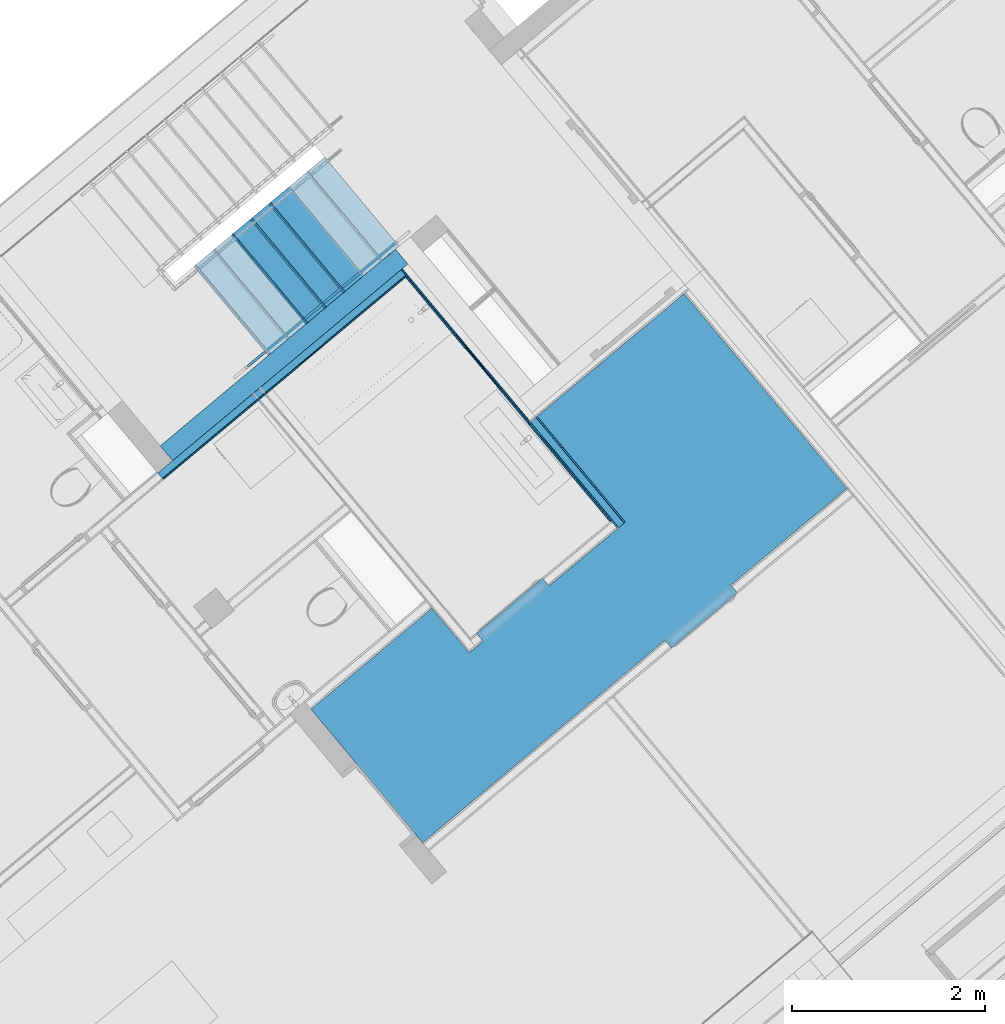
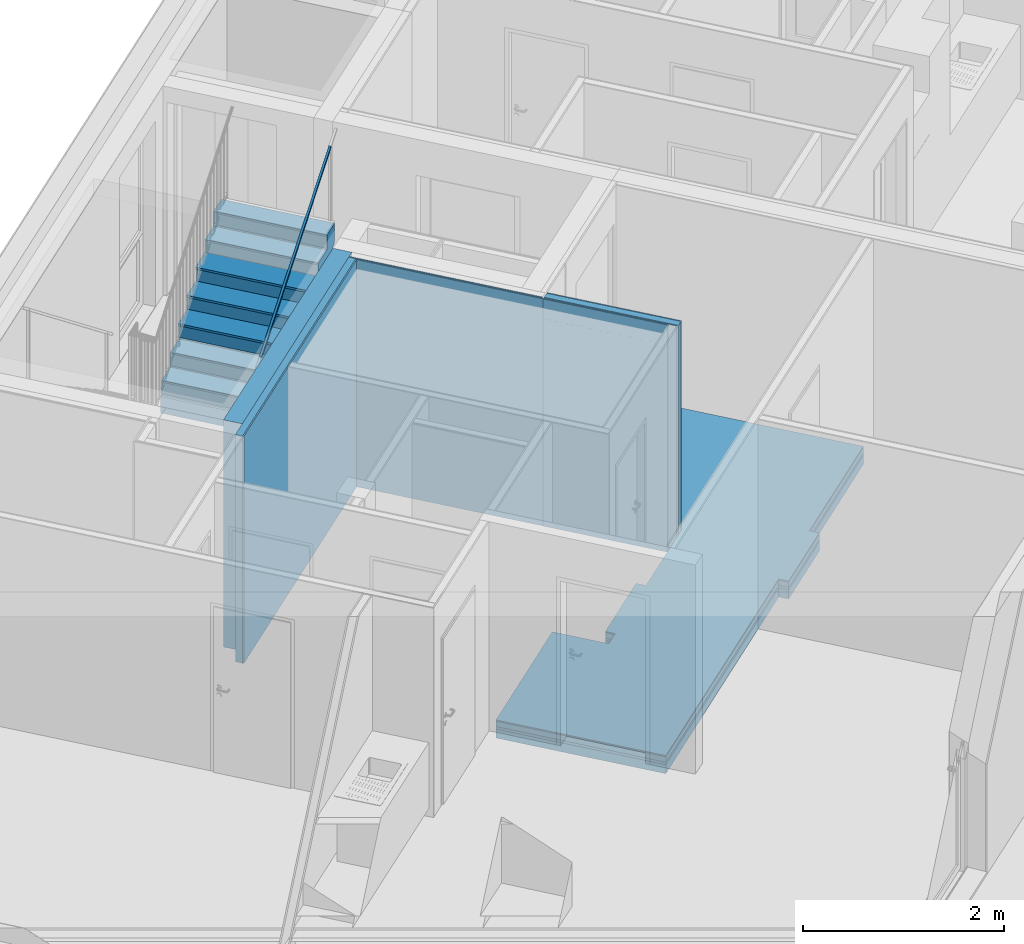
# One storey, part 26 of 58: 21 building element parts, 6 elements without a shape of their own.
"""IFC4 building model written with IfcOpenShell, lengths in metres."""

from ifc_helpers import new_model, entity, si_unit, converted_unit, derived_unit, direction, frame, origin_with_axes, place, context, subcontext, project, spatial, polygons, material, type_object, element, aggregate, save


model = new_model("IFC4")

# Units and contexts
model_context = context("Model", 3, precision=1e-05, world=origin_with_axes(), true_north=direction((0.0, 1.0)))
body_context = subcontext(model_context, "Body", "Model", "MODEL_VIEW")
ifc_project = project(units=[si_unit("LENGTHUNIT", "METRE"), si_unit("AREAUNIT", "SQUARE_METRE"), si_unit("VOLUMEUNIT", "CUBIC_METRE"), converted_unit("PLANEANGLEUNIT", "DEGREE", entity("IfcPlaneAngleMeasure", 0.0174532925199), si_unit("PLANEANGLEUNIT", "RADIAN"), dimensions=[0, 0, 0, 0, 0, 0, 0]), converted_unit("TIMEUNIT", "Year", entity("IfcTimeMeasure", 31556926.0), si_unit("TIMEUNIT", "SECOND"), dimensions=[0, 0, 1, 0, 0, 0, 0]), si_unit("MASSUNIT", "GRAM", prefix="KILO"), si_unit("THERMODYNAMICTEMPERATUREUNIT", "DEGREE_CELSIUS"), si_unit("LUMINOUSINTENSITYUNIT", "LUMEN"), si_unit("ENERGYUNIT", "JOULE", prefix="MEGA"), derived_unit("THERMALCONDUCTANCEUNIT", [(si_unit("POWERUNIT", "WATT"), 1), (si_unit("LENGTHUNIT", "METRE"), -1), (si_unit("THERMODYNAMICTEMPERATUREUNIT", "KELVIN"), -1)]), derived_unit("SPECIFICHEATCAPACITYUNIT", [(si_unit("ENERGYUNIT", "JOULE"), 1), (si_unit("MASSUNIT", "GRAM", prefix="KILO"), -1), (si_unit("THERMODYNAMICTEMPERATUREUNIT", "KELVIN"), -1)]), derived_unit("MASSDENSITYUNIT", [(si_unit("MASSUNIT", "GRAM", prefix="KILO"), 1), (si_unit("VOLUMEUNIT", "CUBIC_METRE"), -1)])], contexts=[model_context])

# Site, building, storey
site_placement = place(None, frame((-0.00153261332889, -0.00661245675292, 0.0), z_axis=(0.0, 0.0, 1.0), x_axis=(1.0, 0.0, 0.0)))
site = spatial("IfcSite", under=ifc_project, at=site_placement, Name="Site", CompositionType="ELEMENT")
building_placement = place(site_placement, origin_with_axes())
building = spatial("IfcBuilding", under=site, at=building_placement, Name="Building", CompositionType="ELEMENT")
storey_placement = place(building_placement, frame((0.0, 0.0, 5.7), z_axis=(0.0, 0.0, 1.0), x_axis=(1.0, 0.0, 0.0)))
storey = spatial("IfcBuildingStorey", under=building, at=storey_placement, Name="DG1", CompositionType="ELEMENT", Elevation=5.7)

# Wall, building element parts
wall_type_1 = type_object("IfcWallType", Name="LB 9,0 cm einfache Vorsatzschale + STB 290", PredefinedType="NOTDEFINED")
wall_1_placement = place(storey_placement, frame((0.396355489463, 22.7277018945, 0.0), z_axis=(0.0, 0.0, 1.0), x_axis=(-0.767365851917, -0.641209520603, 0.0)))
wall_1 = element("IfcWall", 1, at=wall_1_placement, inside=storey, type_object=wall_type_1, Name="Wand-003", PredefinedType="NOTDEFINED")
ifc_material_1 = material(Name="Gipskarton")
building_element_part_1_placement = place(wall_1_placement, origin_with_axes())
building_element_part_1 = element("IfcBuildingElementPart", 2, at=building_element_part_1_placement, material=ifc_material_1, Name="Gipskarton", PredefinedType="NOTDEFINED", context=body_context, shape_type="Tessellation", body=[
    polygons([(3.57052385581, 0.275, 0.0), (0.304999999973, 0.275, 0.0), (0.304999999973, 0.29, 0.0), (3.57052385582, 0.29, 0.0), (3.57052385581, 0.275, 2.76), (0.304999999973, 0.275, 2.76), (0.304999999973, 0.29, 2.76), (3.57052385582, 0.29, 2.76)], [[[1, 2, 3, 4]], [[5, 6, 2, 1]], [[3, 2, 6, 7]], [[4, 3, 7, 8]], [[4, 8, 5, 1]], [[8, 7, 6, 5]]], closed=True),
])
ifc_material_2 = material(Name="Mineralwolle weich")
building_element_part_2_placement = place(wall_1_placement, origin_with_axes())
building_element_part_2 = element("IfcBuildingElementPart", 3, at=building_element_part_2_placement, material=ifc_material_2, Name="Mineralwolle weich", PredefinedType="NOTDEFINED", context=body_context, shape_type="Tessellation", body=[
    polygons([(3.57052385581, 0.2, 0.0), (0.289999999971, 0.2, 0.0), (0.289999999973, 0.275, 0.0), (3.57052385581, 0.275, 0.0), (3.57052385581, 0.2, 2.76), (0.289999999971, 0.2, 2.76), (0.289999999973, 0.275, 2.76), (3.57052385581, 0.275, 2.76)], [[[1, 2, 3, 4]], [[5, 6, 2, 1]], [[3, 2, 6, 7]], [[4, 3, 7, 8]], [[4, 8, 5, 1]], [[8, 7, 6, 5]]], closed=True),
])
ifc_material_3 = material(Name="Stahlbeton Wand")
building_element_part_3_placement = place(wall_1_placement, origin_with_axes())
building_element_part_3 = element("IfcBuildingElementPart", 4, at=building_element_part_3_placement, material=ifc_material_3, Name="Stahlbeton Wand", PredefinedType="NOTDEFINED", context=body_context, shape_type="Tessellation", body=[
    polygons([(3.37052385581, 0.0, 0.0), (0.199999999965, 0.0, 0.0), (0.199999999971, 0.2, 0.0), (3.37052385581, 0.2, 0.0), (3.37052385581, 0.0, 2.76), (0.199999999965, 0.0, 2.76), (0.199999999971, 0.2, 2.76), (3.37052385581, 0.2, 2.76)], [[[1, 2, 3, 4]], [[5, 6, 2, 1]], [[3, 2, 6, 7]], [[4, 3, 7, 8]], [[4, 8, 5, 1]], [[8, 7, 6, 5]]], closed=True),
])
aggregate(wall_1, [building_element_part_1, building_element_part_2, building_element_part_3])

wall_type_2 = type_object("IfcWallType", Name="LB 13 cm doppelte Vorsatzschale Bad  120", PredefinedType="NOTDEFINED")
wall_2_placement = place(storey_placement, frame((1.61425147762, 20.7922360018, 0.0), z_axis=(0.0, 0.0, 1.0), x_axis=(0.641938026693, -0.766756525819, 0.0)))
wall_2 = element("IfcWall", 5, at=wall_2_placement, inside=storey, type_object=wall_type_2, Name="Wand-013", PredefinedType="NOTDEFINED")
ifc_material_4 = material(Name="Gipsputz")
building_element_part_4_placement = place(wall_2_placement, origin_with_axes())
building_element_part_4 = element("IfcBuildingElementPart", 6, at=building_element_part_4_placement, material=ifc_material_4, Name="Gipsputz", PredefinedType="NOTDEFINED", context=body_context, shape_type="Tessellation", body=[
    polygons([(1.42356369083, 0.105, 2.76), (1.42357793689, 0.12, 2.76), (0.0, 0.12, 2.76), (0.0, 0.105, 2.76), (1.42356369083, 0.105, 0.0), (1.42357793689, 0.12, 0.0), (0.0, 0.12, 0.0), (0.0, 0.105, 0.0)], [[[1, 2, 3, 4]], [[2, 1, 5, 6]], [[2, 6, 7, 3]], [[8, 4, 3, 7]], [[5, 1, 4, 8]], [[6, 5, 8, 7]]], closed=True),
])
building_element_part_5_placement = place(wall_2_placement, origin_with_axes())
building_element_part_5 = element("IfcBuildingElementPart", 7, at=building_element_part_5_placement, material=ifc_material_2, Name="Mineralwolle weich", PredefinedType="NOTDEFINED", context=body_context, shape_type="Tessellation", body=[
    polygons([(1.42349246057, 0.03, 2.76), (1.42356369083, 0.105, 2.76), (0.0, 0.105, 2.76), (0.0, 0.03, 2.76), (1.42349246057, 0.03, 0.0), (1.42356369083, 0.105, 0.0), (0.0, 0.105, 0.0), (0.0, 0.03, 0.0)], [[[1, 2, 3, 4]], [[2, 1, 5, 6]], [[2, 6, 7, 3]], [[8, 4, 3, 7]], [[5, 1, 4, 8]], [[6, 5, 8, 7]]], closed=True),
])
building_element_part_6_placement = place(wall_2_placement, origin_with_axes())
building_element_part_6 = element("IfcBuildingElementPart", 8, at=building_element_part_6_placement, material=ifc_material_1, Name="Gipskarton", PredefinedType="NOTDEFINED", context=body_context, shape_type="Tessellation", body=[
    polygons([(1.40847820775, 0.015, 2.76), (1.40849245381, 0.03, 2.76), (0.0, 0.03, 2.76), (0.0, 0.015, 2.76), (1.40847820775, 0.015, 0.0), (1.40849245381, 0.03, 0.0), (0.0, 0.03, 0.0), (0.0, 0.015, 0.0)], [[[1, 2, 3, 4]], [[2, 1, 5, 6]], [[2, 6, 7, 3]], [[8, 4, 3, 7]], [[5, 1, 4, 8]], [[6, 5, 8, 7]]], closed=True),
])
building_element_part_7_placement = place(wall_2_placement, origin_with_axes())
building_element_part_7 = element("IfcBuildingElementPart", 9, at=building_element_part_7_placement, material=ifc_material_1, Name="Gipskarton", PredefinedType="NOTDEFINED", context=body_context, shape_type="Tessellation", body=[
    polygons([(0.0, 0.00140300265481, 2.65), (0.0, 0.00140300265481, 2.52), (1.31846401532, 0.000107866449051, 2.52), (1.31846401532, 0.000107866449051, 2.65), (0.0, 0.0, 2.65), (0.0, 0.0, 2.76), (0.0, 0.015, 2.76), (0.0, 0.015, 0.0), (0.0, 0.0, 0.0), (0.0, 0.0, 2.52), (1.31846391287, 0.0, 2.52), (1.31846392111, 0.0, 0.0), (1.31847816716, 0.015, 0.0), (1.31847816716, 0.015, 2.76), (1.31846392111, 0.0, 2.76), (1.31846391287, 0.0, 2.65)], [[[1, 2, 3, 4]], [[2, 1, 5, 6, 7, 8, 9, 10]], [[11, 3, 2, 10]], [[3, 11, 12, 13, 14, 15, 16, 4]], [[4, 16, 5, 1]], [[5, 16, 15, 6]], [[15, 14, 7, 6]], [[14, 13, 8, 7]], [[13, 12, 9, 8]], [[11, 10, 9, 12]]], closed=True),
])
aggregate(wall_2, [building_element_part_4, building_element_part_5, building_element_part_6, building_element_part_7])

wall_type_3 = type_object("IfcWallType", Name="LB 10,5 cm doppelte Vorsatzschale Bad + STB 305", PredefinedType="NOTDEFINED")
wall_3_placement = place(storey_placement, frame((1.67956966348, 21.1920186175, 0.0), z_axis=(0.0, 0.0, 1.0), x_axis=(-0.641209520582, 0.767365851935, 0.0)))
wall_3 = element("IfcWall", 10, at=wall_3_placement, inside=storey, type_object=wall_type_3, Name="Wand-003", PredefinedType="NOTDEFINED")
building_element_part_8_placement = place(wall_3_placement, origin_with_axes())
building_element_part_8 = element("IfcBuildingElementPart", 11, at=building_element_part_8_placement, material=ifc_material_1, Name="Gipskarton", PredefinedType="NOTDEFINED", context=body_context, shape_type="Tessellation", body=[
    polygons([(1.72624005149, 0.29, 0.0), (-0.264919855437, 0.29, 0.0), (-0.264915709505, 0.305, 0.0), (1.72624005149, 0.305, 0.0), (1.72624005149, 0.29, 2.76), (-0.264919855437, 0.29, 2.76), (-0.264915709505, 0.305, 2.76), (1.72624005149, 0.305, 2.76)], [[[1, 2, 3, 4]], [[5, 6, 2, 1]], [[3, 2, 6, 7]], [[4, 3, 7, 8]], [[4, 8, 5, 1]], [[8, 7, 6, 5]]], closed=True),
    polygons([(2.00128767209, 0.305, 0.0), (2.00128767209, 0.29, 0.0), (2.00124005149, 0.29, 0.0), (2.00124005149, 0.305, 0.0), (2.00128767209, 0.305, 2.76), (2.00128767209, 0.29, 2.76), (2.00124005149, 0.29, 2.76), (2.00124005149, 0.305, 2.76)], [[[1, 2, 3, 4]], [[1, 5, 6, 2]], [[2, 6, 7, 3]], [[4, 3, 7, 8]], [[5, 1, 4, 8]], [[6, 5, 8, 7]]], closed=True),
])
building_element_part_9_placement = place(wall_3_placement, origin_with_axes())
building_element_part_9 = element("IfcBuildingElementPart", 12, at=building_element_part_9_placement, material=ifc_material_1, Name="Gipskarton", PredefinedType="NOTDEFINED", context=body_context, shape_type="Tessellation", body=[
    polygons([(1.80124005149, 0.275, 0.0), (-0.249924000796, 0.275, 0.0), (-0.249919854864, 0.29, 0.0), (1.80124005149, 0.29, 0.0), (1.80124005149, 0.275, 2.76), (-0.249924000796, 0.275, 2.76), (-0.249919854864, 0.29, 2.76), (1.80124005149, 0.29, 2.76)], [[[1, 2, 3, 4]], [[5, 6, 2, 1]], [[3, 2, 6, 7]], [[4, 3, 7, 8]], [[4, 8, 5, 1]], [[8, 7, 6, 5]]], closed=True),
    polygons([(2.00128767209, 0.29, 0.0), (2.00128767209, 0.275, 0.0), (2.00124005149, 0.275, 0.0), (2.00124005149, 0.29, 0.0), (2.00128767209, 0.29, 2.76), (2.00128767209, 0.275, 2.76), (2.00124005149, 0.275, 2.76), (2.00124005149, 0.29, 2.76)], [[[1, 2, 3, 4]], [[1, 5, 6, 2]], [[2, 6, 7, 3]], [[4, 3, 7, 8]], [[5, 1, 4, 8]], [[6, 5, 8, 7]]], closed=True),
])
aggregate(wall_3, [building_element_part_8, building_element_part_9])

# Covering, building element parts
covering_type = type_object("IfcCoveringType", Name="DE 01 Decke Wohnung/Wohnung Fließen 220", PredefinedType="NOTDEFINED")
covering_placement = place(storey_placement, frame((0.620119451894, 18.8878317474, 0.22), z_axis=(0.0, 0.0, 1.0), x_axis=(1.0, 0.0, 0.0)))
covering = element("IfcCovering", 13, at=covering_placement, inside=storey, type_object=covering_type, Name="Decke-002", PredefinedType="NOTDEFINED")
ifc_material_5 = material(Name="Fliesen")
building_element_part_10_placement = place(covering_placement, origin_with_axes())
building_element_part_10 = element("IfcBuildingElementPart", 14, at=building_element_part_10_placement, material=ifc_material_5, Name="Fliesen", PredefinedType="NOTDEFINED", context=body_context, shape_type="Tessellation", body=[
    polygons([(4.29042200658, 1.23806722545, -0.015), (4.29042200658, 1.23806722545, 0.0), (3.09282756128, 0.237362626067, 0.0), (3.09282756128, 0.237362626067, -0.015), (2.60802525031, 3.25172820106, 0.0), (2.60802525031, 3.25172820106, -0.015), (1.22236569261, 2.09498479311, 0.0), (1.08735165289, 1.98223066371, 0.0), (1.99999160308, 0.889899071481, 0.0), (1.20943260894, 0.229309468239, 0.0), (1.14210555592, 0.309882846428, 0.0), (0.459149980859, -0.260793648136, 0.0), (0.526476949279, -0.341367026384, 0.0), (0.384427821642, -0.460063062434, 0.0), (0.0, 0.0, 0.0), (-1.25133214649, -1.04561091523, 0.0), (-0.0965096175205, -2.42764183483, 0.0), (1.25499188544, -1.29833056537, 0.0), (1.93794768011, -0.727654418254, 0.0), (2.40987198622, -0.333313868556, 0.0), (2.47719895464, -0.413887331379, 0.0), (3.16015461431, 0.156789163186, 0.0), (3.16015461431, 0.156789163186, -0.015), (2.47719895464, -0.413887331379, -0.015), (2.40987198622, -0.333313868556, -0.015), (1.93794768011, -0.727654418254, -0.015), (1.25499188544, -1.29833056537, -0.015), (-0.0965096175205, -2.42764183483, -0.015), (-1.25133214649, -1.04561091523, -0.015), (0.0, 0.0, -0.015), (0.384427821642, -0.460063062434, -0.015), (0.526476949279, -0.341367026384, -0.015), (0.459149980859, -0.260793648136, -0.015), (1.14210555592, 0.309882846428, -0.015), (1.20943260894, 0.229309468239, -0.015), (1.99999160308, 0.889899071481, -0.015), (1.08735165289, 1.98223066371, -0.015), (1.22236569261, 2.09498479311, -0.015)], [[[1, 2, 3, 4]], [[5, 2, 1, 6]], [[2, 5, 7, 8, 9, 10, 11, 12, 13, 14, 15, 16, 17, 18, 19, 20, 21, 22, 3]], [[23, 4, 3, 22]], [[6, 1, 4, 23, 24, 25, 26, 27, 28, 29, 30, 31, 32, 33, 34, 35, 36, 37, 38]], [[5, 6, 38, 7]], [[8, 7, 38, 37]], [[8, 37, 36, 9]], [[36, 35, 10, 9]], [[35, 34, 11, 10]], [[34, 33, 12, 11]], [[33, 32, 13, 12]], [[32, 31, 14, 13]], [[31, 30, 15, 14]], [[30, 29, 16, 15]], [[29, 28, 17, 16]], [[27, 18, 17, 28]], [[26, 19, 18, 27]], [[19, 26, 25, 20]], [[25, 24, 21, 20]], [[24, 23, 22, 21]]], closed=True),
])
ifc_material_6 = material(Name="Estrich")
building_element_part_11_placement = place(covering_placement, origin_with_axes())
building_element_part_11 = element("IfcBuildingElementPart", 15, at=building_element_part_11_placement, material=ifc_material_6, Name="Estrich", PredefinedType="NOTDEFINED", context=body_context, shape_type="Tessellation", body=[
    polygons([(4.29042200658, 1.23806722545, -0.08), (4.29042200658, 1.23806722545, -0.015), (3.09282756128, 0.237362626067, -0.015), (3.09282756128, 0.237362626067, -0.08), (2.60802525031, 3.25172820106, -0.015), (2.60802525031, 3.25172820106, -0.08), (1.22236569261, 2.09498479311, -0.015), (1.08735165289, 1.98223066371, -0.015), (1.99999160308, 0.889899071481, -0.015), (1.20943260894, 0.229309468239, -0.015), (1.14210555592, 0.309882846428, -0.015), (0.459149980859, -0.260793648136, -0.015), (0.526476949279, -0.341367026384, -0.015), (0.384427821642, -0.460063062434, -0.015), (0.0, 0.0, -0.015), (-1.25133214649, -1.04561091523, -0.015), (-0.0965096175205, -2.42764183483, -0.015), (1.25499188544, -1.29833056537, -0.015), (1.93794768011, -0.727654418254, -0.015), (2.40987198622, -0.333313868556, -0.015), (2.47719895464, -0.413887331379, -0.015), (3.16015461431, 0.156789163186, -0.015), (3.16015461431, 0.156789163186, -0.08), (2.47719895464, -0.413887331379, -0.08), (2.40987198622, -0.333313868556, -0.08), (1.93794768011, -0.727654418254, -0.08), (1.25499188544, -1.29833056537, -0.08), (-0.0965096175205, -2.42764183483, -0.08), (-1.25133214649, -1.04561091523, -0.08), (0.0, 0.0, -0.08), (0.384427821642, -0.460063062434, -0.08), (0.526476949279, -0.341367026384, -0.08), (0.459149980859, -0.260793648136, -0.08), (1.14210555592, 0.309882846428, -0.08), (1.20943260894, 0.229309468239, -0.08), (1.99999160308, 0.889899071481, -0.08), (1.08735165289, 1.98223066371, -0.08), (1.22236569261, 2.09498479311, -0.08)], [[[1, 2, 3, 4]], [[5, 2, 1, 6]], [[2, 5, 7, 8, 9, 10, 11, 12, 13, 14, 15, 16, 17, 18, 19, 20, 21, 22, 3]], [[23, 4, 3, 22]], [[6, 1, 4, 23, 24, 25, 26, 27, 28, 29, 30, 31, 32, 33, 34, 35, 36, 37, 38]], [[5, 6, 38, 7]], [[8, 7, 38, 37]], [[8, 37, 36, 9]], [[36, 35, 10, 9]], [[35, 34, 11, 10]], [[34, 33, 12, 11]], [[33, 32, 13, 12]], [[32, 31, 14, 13]], [[31, 30, 15, 14]], [[30, 29, 16, 15]], [[29, 28, 17, 16]], [[27, 18, 17, 28]], [[26, 19, 18, 27]], [[19, 26, 25, 20]], [[25, 24, 21, 20]], [[24, 23, 22, 21]]], closed=True),
])
ifc_material_7 = material(Name="Trittschalldämmung")
building_element_part_12_placement = place(covering_placement, origin_with_axes())
building_element_part_12 = element("IfcBuildingElementPart", 16, at=building_element_part_12_placement, material=ifc_material_7, Name="Trittschalldämmung", PredefinedType="NOTDEFINED", context=body_context, shape_type="Tessellation", body=[
    polygons([(4.29042200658, 1.23806722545, -0.11), (4.29042200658, 1.23806722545, -0.08), (3.09282756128, 0.237362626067, -0.08), (3.09282756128, 0.237362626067, -0.11), (2.60802525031, 3.25172820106, -0.08), (2.60802525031, 3.25172820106, -0.11), (1.22236569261, 2.09498479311, -0.08), (1.08735165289, 1.98223066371, -0.08), (1.99999160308, 0.889899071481, -0.08), (1.20943260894, 0.229309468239, -0.08), (1.14210555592, 0.309882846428, -0.08), (0.459149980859, -0.260793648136, -0.08), (0.526476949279, -0.341367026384, -0.08), (0.384427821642, -0.460063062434, -0.08), (0.0, 0.0, -0.08), (-1.25133214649, -1.04561091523, -0.08), (-0.0965096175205, -2.42764183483, -0.08), (1.25499188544, -1.29833056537, -0.08), (1.93794768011, -0.727654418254, -0.08), (2.40987198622, -0.333313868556, -0.08), (2.47719895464, -0.413887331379, -0.08), (3.16015461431, 0.156789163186, -0.08), (3.16015461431, 0.156789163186, -0.11), (2.47719895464, -0.413887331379, -0.11), (2.40987198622, -0.333313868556, -0.11), (1.93794768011, -0.727654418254, -0.11), (1.25499188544, -1.29833056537, -0.11), (-0.0965096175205, -2.42764183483, -0.11), (-1.25133214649, -1.04561091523, -0.11), (0.0, 0.0, -0.11), (0.384427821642, -0.460063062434, -0.11), (0.526476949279, -0.341367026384, -0.11), (0.459149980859, -0.260793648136, -0.11), (1.14210555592, 0.309882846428, -0.11), (1.20943260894, 0.229309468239, -0.11), (1.99999160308, 0.889899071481, -0.11), (1.08735165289, 1.98223066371, -0.11), (1.22236569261, 2.09498479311, -0.11)], [[[1, 2, 3, 4]], [[5, 2, 1, 6]], [[2, 5, 7, 8, 9, 10, 11, 12, 13, 14, 15, 16, 17, 18, 19, 20, 21, 22, 3]], [[23, 4, 3, 22]], [[6, 1, 4, 23, 24, 25, 26, 27, 28, 29, 30, 31, 32, 33, 34, 35, 36, 37, 38]], [[5, 6, 38, 7]], [[8, 7, 38, 37]], [[8, 37, 36, 9]], [[36, 35, 10, 9]], [[35, 34, 11, 10]], [[34, 33, 12, 11]], [[33, 32, 13, 12]], [[32, 31, 14, 13]], [[31, 30, 15, 14]], [[30, 29, 16, 15]], [[29, 28, 17, 16]], [[27, 18, 17, 28]], [[26, 19, 18, 27]], [[19, 26, 25, 20]], [[25, 24, 21, 20]], [[24, 23, 22, 21]]], closed=True),
])
ifc_material_8 = material(Name="Schüttung")
building_element_part_13_placement = place(covering_placement, origin_with_axes())
building_element_part_13 = element("IfcBuildingElementPart", 17, at=building_element_part_13_placement, material=ifc_material_8, Name="Schüttung", PredefinedType="NOTDEFINED", context=body_context, shape_type="Tessellation", body=[
    polygons([(4.29042200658, 1.23806722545, -0.22), (4.29042200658, 1.23806722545, -0.11), (3.09282756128, 0.237362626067, -0.11), (3.09282756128, 0.237362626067, -0.22), (2.60802525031, 3.25172820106, -0.11), (2.60802525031, 3.25172820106, -0.22), (1.22236569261, 2.09498479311, -0.11), (1.08735165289, 1.98223066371, -0.11), (1.99999160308, 0.889899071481, -0.11), (1.20943260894, 0.229309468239, -0.11), (1.14210555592, 0.309882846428, -0.11), (0.459149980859, -0.260793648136, -0.11), (0.526476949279, -0.341367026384, -0.11), (0.384427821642, -0.460063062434, -0.11), (0.0, 0.0, -0.11), (-1.25133214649, -1.04561091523, -0.11), (-0.0965096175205, -2.42764183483, -0.11), (1.25499188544, -1.29833056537, -0.11), (1.93794768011, -0.727654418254, -0.11), (2.40987198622, -0.333313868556, -0.11), (2.47719895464, -0.413887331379, -0.11), (3.16015461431, 0.156789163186, -0.11), (3.16015461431, 0.156789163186, -0.22), (2.47719895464, -0.413887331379, -0.22), (2.40987198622, -0.333313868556, -0.22), (1.93794768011, -0.727654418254, -0.22), (1.25499188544, -1.29833056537, -0.22), (-0.0965096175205, -2.42764183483, -0.22), (-1.25133214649, -1.04561091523, -0.22), (0.0, 0.0, -0.22), (0.384427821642, -0.460063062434, -0.22), (0.526476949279, -0.341367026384, -0.22), (0.459149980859, -0.260793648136, -0.22), (1.14210555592, 0.309882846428, -0.22), (1.20943260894, 0.229309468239, -0.22), (1.99999160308, 0.889899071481, -0.22), (1.08735165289, 1.98223066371, -0.22), (1.22236569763, 2.0949847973, -0.22)], [[[1, 2, 3, 4]], [[5, 2, 1, 6]], [[2, 5, 7, 8, 9, 10, 11, 12, 13, 14, 15, 16, 17, 18, 19, 20, 21, 22, 3]], [[4, 3, 22, 23]], [[6, 1, 4, 23, 24, 25, 26, 27, 28, 29, 30, 31, 32, 33, 34, 35, 36, 37, 38]], [[5, 6, 38, 7]], [[8, 7, 38, 37]], [[8, 37, 36, 9]], [[35, 10, 9, 36]], [[34, 11, 10, 35]], [[33, 12, 11, 34]], [[32, 13, 12, 33]], [[31, 14, 13, 32]], [[30, 15, 14, 31]], [[29, 16, 15, 30]], [[28, 17, 16, 29]], [[28, 27, 18, 17]], [[27, 26, 19, 18]], [[20, 19, 26, 25]], [[24, 21, 20, 25]], [[23, 22, 21, 24]]], closed=True),
])
aggregate(covering, [building_element_part_10, building_element_part_11, building_element_part_12, building_element_part_13])

# Railing, building element part
railing_type = type_object("IfcRailingType", Name="Geländerart", PredefinedType="NOTDEFINED")
railing_placement = place(storey_placement, frame((-1.26480795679, 21.3396367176, 1.82058823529), z_axis=(0.0, 0.0, 1.0), x_axis=(1.0, 0.0, 0.0)))
railing = element("IfcRailing", 18, at=railing_placement, inside=storey, type_object=railing_type, Name="Geländer - 002", PredefinedType="NOTDEFINED")
ifc_material_9 = material(Name="BEKLEIDUNG")
building_element_part_14_placement = place(railing_placement, origin_with_axes())
building_element_part_14 = element("IfcBuildingElementPart", 19, at=building_element_part_14_placement, material=ifc_material_9, Name="BEKLEIDUNG", PredefinedType="NOTDEFINED", context=body_context, shape_type="Tessellation", body=[
    polygons([(-0.024045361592, 0.0287762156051, 0.9), (-0.0139891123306, 0.0371791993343, 0.878710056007), (1.53111960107, 1.32826925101, 2.11812182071), (1.52106335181, 1.31986626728, 2.13941176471), (-0.0400755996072, 0.0479603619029, 0.9), (-0.0300193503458, 0.0563633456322, 0.878710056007), (1.51508936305, 1.34745339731, 2.11812182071), (1.50503311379, 1.33905041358, 2.13941176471)], [[[1, 2, 3, 4]], [[1, 5, 6, 2]], [[2, 6, 7, 3]], [[4, 3, 7, 8]], [[5, 1, 4, 8]], [[6, 5, 8, 7]]], closed=True),
])
aggregate(railing, [building_element_part_14])

# Stair, building element parts
stair_type = type_object("IfcStairType", Name="Treppentyp", PredefinedType="NOTDEFINED")
stair_placement = place(storey_placement, frame((-0.972083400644, 24.9200947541, 0.05), z_axis=(0.0, 0.0, 1.0), x_axis=(1.0, 0.0, 0.0)))
stair = element("IfcStair", 20, at=stair_placement, inside=storey, type_object=stair_type, Name="Treppe - 001", PredefinedType="NOTDEFINED")
ifc_material_10 = material(Name="Stahlbeton Decke")
building_element_part_15_placement = place(stair_placement, origin_with_axes())
building_element_part_15 = element("IfcBuildingElementPart", 21, at=building_element_part_15_placement, material=ifc_material_10, Name="Stahlbeton Decke", PredefinedType="NOTDEFINED", context=body_context, shape_type="Tessellation", body=[
    polygons([(1.12362509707, -2.39695883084, 2.64145231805), (1.18800462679, -2.34316341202, 2.70047192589), (1.25238415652, -2.2893679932, 2.75949153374), (1.25238415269, -2.28936798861, 2.985), (1.0785064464, -2.4346598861, 2.985), (1.0785064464, -2.4346598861, 2.80794117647), (0.885367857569, -2.59604614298, 2.80794117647), (0.885367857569, -2.59604614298, 2.63088235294), (0.692229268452, -2.75743239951, 2.63088235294), (0.692229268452, -2.75743239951, 2.45382352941), (0.499090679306, -2.918818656, 2.45382352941), (0.499090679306, -2.918818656, 2.27676470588), (0.305952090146, -3.08020491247, 2.27676470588), (0.305952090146, -3.08020491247, 2.09970588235), (0.112813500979, -3.24159116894, 2.09970588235), (0.112813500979, -3.24159116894, 1.92264705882), (-0.0803250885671, -3.40297742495, 1.92264705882), (-0.0803250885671, -3.40297742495, 1.74558823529), (-0.0995859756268, -3.41907178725, 1.74558823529), (-0.0995859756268, -3.41907178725, 1.54558823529), (-0.0717609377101, -3.39582123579, 1.54558823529), (-0.0673962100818, -3.39217407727, 1.54958957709), (-0.0352064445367, -3.36527636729, 1.57909938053), (-0.0030166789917, -3.33837865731, 1.60860918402), (0.0291730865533, -3.31148094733, 1.6381189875), (0.0613628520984, -3.28458323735, 1.66762879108), (0.0935526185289, -3.25768552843, 1.69713859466), (0.125742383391, -3.23078781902, 1.72664839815), (0.157932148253, -3.20389010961, 1.75615820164), (0.190121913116, -3.1769924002, 1.78566800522), (0.222311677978, -3.15009469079, 1.8151778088), (0.25450144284, -3.12319698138, 1.8446876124), (0.286691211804, -3.09629927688, 1.874197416), (0.351070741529, -3.04250385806, 1.93321702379), (0.415450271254, -2.98870843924, 1.99223663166), (0.479829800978, -2.93491302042, 2.05125623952), (0.544209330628, -2.88111760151, 2.11027584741), (0.608588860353, -2.82732218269, 2.16929545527), (0.672968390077, -2.77352676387, 2.22831506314), (0.73734791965, -2.71973134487, 2.28733467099), (0.801727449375, -2.66593592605, 2.34635427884), (0.8661069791, -2.61214050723, 2.40537388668), (0.930486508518, -2.55834508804, 2.46439349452), (0.994866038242, -2.50454966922, 2.52341310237), (1.05924556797, -2.4507542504, 2.58243271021), (0.418553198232, -1.42232438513, 2.70047192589), (0.354173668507, -1.47611980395, 2.64145231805), (0.482932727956, -1.36852896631, 2.75949153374), (0.482932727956, -1.36852896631, 2.985), (0.309055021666, -1.51382086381, 2.985), (0.309055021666, -1.51382086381, 2.80794117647), (0.115916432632, -1.67520712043, 2.80794117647), (0.115916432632, -1.67520712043, 2.63088235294), (-0.0772221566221, -1.8365933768, 2.63088235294), (-0.0772221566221, -1.8365933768, 2.45382352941), (-0.270360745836, -1.99797963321, 2.45382352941), (-0.270360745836, -1.99797963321, 2.27676470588), (-0.463499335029, -2.15936588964, 2.27676470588), (-0.463499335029, -2.15936588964, 2.09970588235), (-0.656637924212, -2.32075214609, 2.09970588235), (-0.656637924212, -2.32075214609, 1.92264705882), (-0.849776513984, -2.48213840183, 1.92264705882), (-0.849776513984, -2.48213840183, 1.74558823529), (-0.86903741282, -2.49823277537, 1.74558823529), (-0.869037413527, -2.49823277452, 1.54558823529), (-0.841212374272, -2.47498222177, 1.54558823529), (-0.815129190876, -2.50619720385, 1.54558823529), (-0.482569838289, -2.90418674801, 1.54558823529), (-0.430403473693, -2.96661670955, 1.54558823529), (-0.0978441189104, -3.36460625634, 1.54558823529), (-0.227569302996, -3.13506661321, 1.57909938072), (-0.163189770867, -3.08127119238, 1.63811898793), (-0.0988102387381, -3.02747577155, 1.69713859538), (-0.0344307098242, -2.97368035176, 1.75615820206), (0.0299488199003, -2.91988493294, 1.81517780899), (0.0943283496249, -2.86608951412, 1.87419741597), (-0.418380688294, -2.12166482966, 1.93321702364), (-0.290397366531, -2.40566999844, 1.8741974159), (-0.482760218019, -2.17546024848, 1.87419741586), (-0.35400115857, -2.06786941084, 1.99223663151), (-0.289621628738, -2.01407399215, 2.0512562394), (-0.225242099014, -1.96027857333, 2.11027584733), (-0.160862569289, -1.90648315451, 2.16929545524), (-0.0964830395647, -1.85268773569, 2.22831506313), (-0.0321035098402, -1.79889231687, 2.28733467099), (0.0322760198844, -1.74509689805, 2.34635427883), (0.0966555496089, -1.69130147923, 2.40537388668), (0.161035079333, -1.63750606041, 2.46439349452), (0.225414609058, -1.58371064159, 2.52341310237), (0.289794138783, -1.52991522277, 2.58243271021), (-0.804657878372, -2.44443735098, 1.57909938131), (-0.836847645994, -2.4713350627, 1.54958957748), (-0.514949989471, -2.20235795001, 1.84468761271), (-0.547139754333, -2.22925565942, 1.81517780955), (-0.579329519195, -2.25615336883, 1.78566800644), (-0.611519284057, -2.28305107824, 1.75615820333), (-0.64370904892, -2.30994878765, 1.72664840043), (-0.675898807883, -2.33684650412, 1.69713859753), (-0.708088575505, -2.36374421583, 1.66762879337), (-0.740278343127, -2.39064192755, 1.6381189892), (-0.77246811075, -2.41753963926, 1.60860918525), (-0.612295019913, -2.67464710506, 1.57909938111), (-0.452121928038, -2.93175456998, 1.54958957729), (-0.387742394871, -2.87795914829, 1.60860918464), (-0.323362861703, -2.82416372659, 1.66762879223), (-0.258983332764, -2.77036830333, 1.72664839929), (-0.19460380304, -2.71657288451, 1.78566800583), (-0.130224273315, -2.66277746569, 1.84468761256), (-0.354776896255, -2.45946541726, 1.81517780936), (-0.41915642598, -2.51326083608, 1.75615820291), (-0.483535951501, -2.56705625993, 1.69713859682), (-0.547915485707, -2.62085168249, 1.63811898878)], [[[1, 2, 3, 4, 5, 6, 7, 8, 9, 10, 11, 12, 13, 14, 15, 16, 17, 18, 19, 20, 21, 22, 23, 24, 25, 26, 27, 28, 29, 30, 31, 32, 33, 34, 35, 36, 37, 38, 39, 40, 41, 42, 43, 44, 45]], [[46, 2, 1, 47]], [[48, 3, 2, 46]], [[4, 3, 48, 49]], [[4, 49, 50, 5]], [[50, 51, 6, 5]], [[52, 7, 6, 51]], [[52, 53, 8, 7]], [[54, 9, 8, 53]], [[54, 55, 10, 9]], [[56, 11, 10, 55]], [[56, 57, 12, 11]], [[58, 13, 12, 57]], [[58, 59, 14, 13]], [[60, 15, 14, 59]], [[60, 61, 16, 15]], [[62, 17, 16, 61]], [[62, 63, 18, 17]], [[63, 64, 19, 18]], [[65, 20, 19, 64]], [[21, 20, 65, 66, 67, 68, 69, 70]], [[70, 22, 21]], [[71, 23, 22]], [[71, 24, 23]], [[72, 25, 24]], [[72, 26, 25]], [[73, 27, 26]], [[73, 28, 27]], [[74, 29, 28]], [[74, 30, 29]], [[75, 31, 30]], [[75, 32, 31]], [[76, 33, 32]], [[77, 34, 33, 76, 78, 79]], [[80, 35, 34, 77]], [[81, 36, 35, 80]], [[82, 37, 36, 81]], [[83, 38, 37, 82]], [[84, 39, 38, 83]], [[85, 40, 39, 84]], [[86, 41, 40, 85]], [[87, 42, 41, 86]], [[88, 43, 42, 87]], [[89, 44, 43, 88]], [[90, 45, 44, 89]], [[47, 1, 45, 90]], [[91, 92, 66, 65, 64, 63, 62, 61, 60, 59, 58, 57, 56, 55, 54, 53, 52, 51, 50, 49, 48, 46, 47, 90, 89, 88, 87, 86, 85, 84, 83, 82, 81, 80, 77, 79, 93, 94, 95, 96, 97, 98, 99, 100, 101]], [[67, 66, 92]], [[67, 92, 102, 103, 68]], [[69, 68, 103]], [[103, 71, 22, 70, 69]], [[104, 72, 24, 71]], [[105, 73, 26, 72]], [[106, 74, 28, 73]], [[74, 107, 75, 30]], [[108, 76, 32, 75]], [[108, 78, 76]], [[78, 93, 79]], [[102, 92, 91]], [[109, 94, 93]], [[109, 95, 94]], [[110, 96, 95]], [[110, 97, 96]], [[111, 98, 97]], [[111, 99, 98]], [[112, 100, 99]], [[112, 101, 100]], [[102, 91, 101]], [[103, 102, 71]], [[72, 104, 112]], [[71, 102, 104]], [[73, 105, 111]], [[112, 105, 72]], [[74, 106, 110]], [[73, 111, 106]], [[74, 110, 107]], [[75, 107, 109]], [[109, 108, 75]], [[109, 93, 78, 108]], [[95, 109, 107, 110]], [[111, 97, 110, 106]], [[99, 111, 105, 112]], [[102, 101, 112, 104]]], closed=True),
])
building_element_part_16_placement = place(stair_placement, origin_with_axes())
building_element_part_16 = element("IfcBuildingElementPart", 22, at=building_element_part_16_placement, material=ifc_material_9, Name="BEKLEIDUNG", PredefinedType="NOTDEFINED", context=body_context, shape_type="Tessellation", body=[
    polygons([(0.298201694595, -3.0866811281, 2.27676470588), (0.305875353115, -3.08026903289, 2.27676470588), (-0.463576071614, -2.1594300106, 2.27676470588), (-0.471249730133, -2.1658421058, 2.27676470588), (0.298201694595, -3.0866811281, 2.12470588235), (0.305875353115, -3.08026903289, 2.12470588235), (-0.463576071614, -2.1594300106, 2.12470588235), (-0.471249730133, -2.1658421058, 2.12470588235)], [[[1, 2, 3, 4]], [[1, 5, 6, 2]], [[2, 6, 7, 3]], [[4, 3, 7, 8]], [[5, 1, 4, 8]], [[6, 5, 8, 7]]], closed=True),
])
building_element_part_17_placement = place(stair_placement, origin_with_axes())
building_element_part_17 = element("IfcBuildingElementPart", 23, at=building_element_part_17_placement, material=ifc_material_9, Name="BEKLEIDUNG", PredefinedType="NOTDEFINED", context=body_context, shape_type="Tessellation", body=[
    polygons([(0.491340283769, -2.92529487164, 2.45382352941), (0.499013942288, -2.91888277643, 2.45382352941), (-0.270437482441, -1.99804375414, 2.45382352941), (-0.27811114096, -2.00445584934, 2.45382352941), (0.491340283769, -2.92529487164, 2.30176470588), (0.499013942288, -2.91888277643, 2.30176470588), (-0.270437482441, -1.99804375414, 2.30176470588), (-0.27811114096, -2.00445584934, 2.30176470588)], [[[1, 2, 3, 4]], [[1, 5, 6, 2]], [[2, 6, 7, 3]], [[4, 3, 7, 8]], [[5, 1, 4, 8]], [[6, 5, 8, 7]]], closed=True),
])
building_element_part_18_placement = place(stair_placement, origin_with_axes())
building_element_part_18 = element("IfcBuildingElementPart", 24, at=building_element_part_18_placement, material=ifc_material_9, Name="BEKLEIDUNG", PredefinedType="NOTDEFINED", context=body_context, shape_type="Tessellation", body=[
    polygons([(0.684478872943, -2.76390861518, 2.63088235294), (0.692152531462, -2.75749651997, 2.63088235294), (-0.0772988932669, -1.83665749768, 2.63088235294), (-0.084972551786, -1.84306959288, 2.63088235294), (0.684478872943, -2.76390861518, 2.47882352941), (0.692152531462, -2.75749651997, 2.47882352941), (-0.0772988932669, -1.83665749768, 2.47882352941), (-0.084972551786, -1.84306959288, 2.47882352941)], [[[1, 2, 3, 4]], [[1, 5, 6, 2]], [[2, 6, 7, 3]], [[4, 3, 7, 8]], [[5, 1, 4, 8]], [[6, 5, 8, 7]]], closed=True),
])
building_element_part_19_placement = place(stair_placement, origin_with_axes())
building_element_part_19 = element("IfcBuildingElementPart", 25, at=building_element_part_19_placement, material=ifc_material_9, Name="BEKLEIDUNG", PredefinedType="NOTDEFINED", context=body_context, shape_type="Tessellation", body=[
    polygons([(-0.482760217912, -2.17546024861, 2.27676470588), (0.286691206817, -3.09629927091, 2.27676470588), (0.286691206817, -3.09629927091, 2.30176470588), (-0.482760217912, -2.17546024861, 2.30176470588), (-0.270437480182, -1.99804375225, 2.27676470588), (0.499013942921, -2.9188827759, 2.27676470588), (0.499013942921, -2.9188827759, 2.30176470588), (-0.270437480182, -1.99804375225, 2.30176470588)], [[[1, 2, 3, 4]], [[1, 5, 6, 2]], [[2, 6, 7, 3]], [[4, 3, 7, 8]], [[5, 1, 4, 8]], [[6, 5, 8, 7]]], closed=True),
])
building_element_part_20_placement = place(stair_placement, origin_with_axes())
building_element_part_20 = element("IfcBuildingElementPart", 26, at=building_element_part_20_placement, material=ifc_material_9, Name="BEKLEIDUNG", PredefinedType="NOTDEFINED", context=body_context, shape_type="Tessellation", body=[
    polygons([(-0.289621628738, -2.01407399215, 2.45382352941), (0.47982979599, -2.93491301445, 2.45382352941), (0.47982979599, -2.93491301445, 2.47882352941), (-0.289621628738, -2.01407399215, 2.47882352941), (-0.0772988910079, -1.83665749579, 2.45382352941), (0.692152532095, -2.75749651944, 2.45382352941), (0.692152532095, -2.75749651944, 2.47882352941), (-0.0772988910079, -1.83665749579, 2.47882352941)], [[[1, 2, 3, 4]], [[1, 5, 6, 2]], [[2, 6, 7, 3]], [[4, 3, 7, 8]], [[5, 1, 4, 8]], [[6, 5, 8, 7]]], closed=True),
])
building_element_part_21_placement = place(stair_placement, origin_with_axes())
building_element_part_21 = element("IfcBuildingElementPart", 27, at=building_element_part_21_placement, material=ifc_material_9, Name="BEKLEIDUNG", PredefinedType="NOTDEFINED", context=body_context, shape_type="Tessellation", body=[
    polygons([(-0.0964830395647, -1.85268773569, 2.63088235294), (0.672968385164, -2.77352675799, 2.63088235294), (0.672968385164, -2.77352675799, 2.65588235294), (-0.0964830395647, -1.85268773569, 2.65588235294), (0.115839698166, -1.67527123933, 2.63088235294), (0.885291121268, -2.59611026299, 2.63088235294), (0.885291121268, -2.59611026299, 2.65588235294), (0.115839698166, -1.67527123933, 2.65588235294)], [[[1, 2, 3, 4]], [[1, 5, 6, 2]], [[2, 6, 7, 3]], [[4, 3, 7, 8]], [[5, 1, 4, 8]], [[6, 5, 8, 7]]], closed=True),
])
aggregate(stair, [building_element_part_15, building_element_part_16, building_element_part_17, building_element_part_18, building_element_part_19, building_element_part_20, building_element_part_21])

save(model, "model.ifc")
